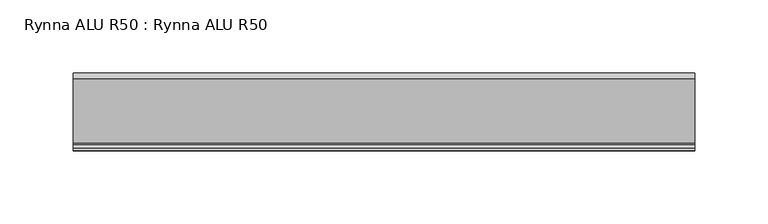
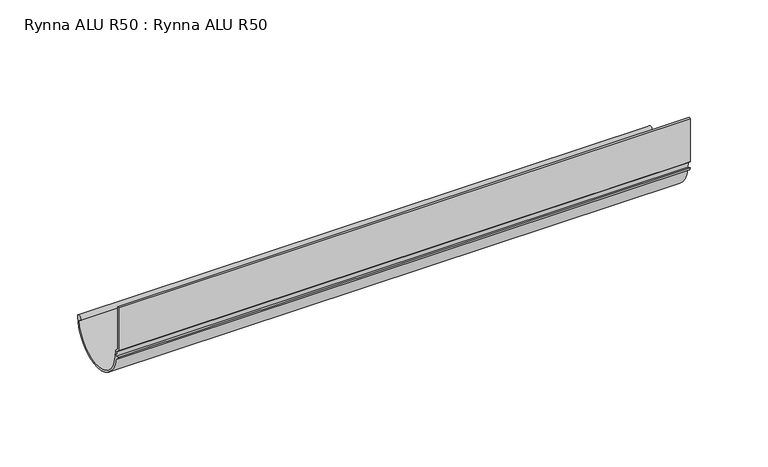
"""IFC4 building model written with IfcOpenShell, lengths in millimetres: proxy geometry, Rynna ALU R50 : Rynna ALU R50."""

from ifc_helpers import new_model, si_unit, point, frame, frame_2d, origin, place, context, project, spatial, polyline, circle_curve, trimmed, segment, composite_curve, outline, extrude, source, transform, mapped, element, save


def rynna_alu_r50_rynna_alu_r50_32d18274(model_context):
    return source(origin(), model_context, "Body", "SweptSolid", [
        extrude(outline(composite_curve([segment(polyline([(-0.6978396, -5.5427289), (0.7021617, -5.5427289), (0.7021617, -38.7702547), (3.0707013, -41.065916), (3.9370468, -46.8196069)]), True, "CONTINUOUS"), segment(trimmed(circle_curve(frame_2d((27.3646611, -44.302303)), 23.5624686), [point((3.9370468, -46.8196069))], [point((50.8512717, -46.1914952))], True, "CARTESIAN"), True, "CONTINUOUS"), segment(trimmed(circle_curve(frame_2d((50.3771937, -44.3000011)), 1.95), [point((50.8512717, -46.1914952))], [point((52.3271923, -44.302303))], False, "CARTESIAN"), True, "CONTINUOUS"), segment(trimmed(circle_curve(frame_2d((27.3646611, -44.302303)), 24.9625312), [point((52.3271923, -44.302303))], [point((2.6292486, -47.6619658))], False, "CARTESIAN"), True, "CONTINUOUS"), segment(polyline([(2.6292486, -47.6619658), (-0.1767814, -46.0765907), (-0.9565767, -44.1281649), (2.328284, -45.5225054), (1.8149767, -41.8701356), (-0.6978396, -39.5252625), (-0.6978396, -5.5427289)]), True, "CONTINUOUS")], self_intersect=False)), frame((-212.5, 0.0, 0.0), z_axis=(1.0, 0.0, 0.0), x_axis=(0.0, 1.0, 0.0)), (0.0, 0.0, 1.0), 425.0),
    ])


if __name__ == "__main__":
    model = new_model("IFC4")
    model_context = context("Model", 3, world=origin())
    ifc_project = project(units=[si_unit("LENGTHUNIT", "METRE", prefix="MILLI")], contexts=[model_context])
    site = spatial("IfcSite", under=ifc_project)
    building = spatial("IfcBuilding", under=site)
    placement = place(None, origin())
    rynna_alu_r50_rynna_alu_r50_shape = rynna_alu_r50_rynna_alu_r50_32d18274(model_context)
    element("IfcBuildingElementProxy", 1, Name="Rynna ALU R50 : Rynna ALU R50", ObjectType="Rynna ALU R50 : Rynna ALU R50", at=placement, inside=building, context=model_context, shape_type="MappedRepresentation", body=[
        mapped(rynna_alu_r50_rynna_alu_r50_shape, transform((0.0, 0.0, 0.0), x_axis=(1.0, 0.0, 0.0), y_axis=(0.0, 1.0, 0.0), z_axis=(0.0, 0.0, 1.0))),
    ])
    save(model, "model.ifc")
